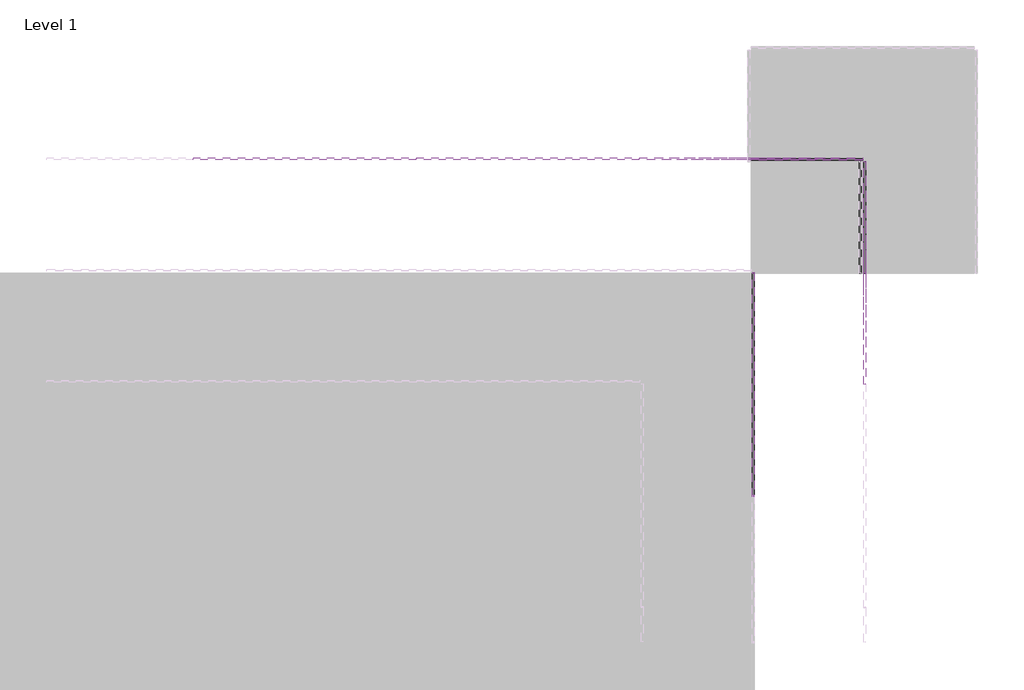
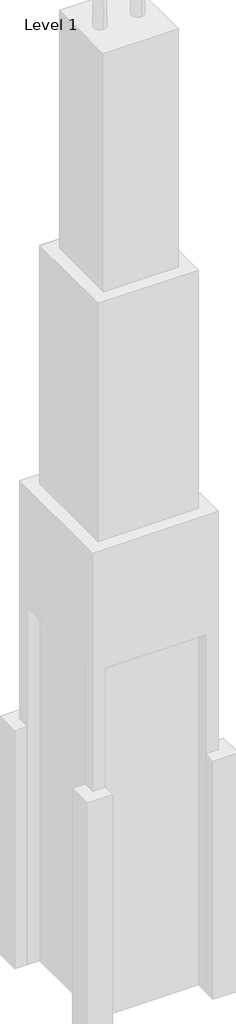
# One storey, part 10 of 15: 137 plates.
"""IFC4 building model written with IfcOpenShell, lengths in millimetres."""

from ifc_helpers import new_model, si_unit, origin, place, context, project, spatial, transform, mapped, element, save
from components import system_panel_glazed_9c75bc08, system_panel_glazed_0a0842ec, system_panel_glazed_aa64d645, system_panel_glazed_b248394d

model = new_model("IFC4")

# Units and contexts
model_context = context("Model", 3, world=origin())
ifc_project = project(units=[si_unit("LENGTHUNIT", "METRE", prefix="MILLI")], contexts=[model_context])

# Site, building, storey
site = spatial("IfcSite", under=ifc_project)
building = spatial("IfcBuilding", under=site)
storey = spatial("IfcBuildingStorey", under=building, Name="Level 1", Elevation=0.0)

# Plates
placement = place(None, origin())
system_panel_glazed_shape = system_panel_glazed_9c75bc08(model_context)
element("IfcPlate", 1, ObjectType="System Panel : Glazed", at=placement, inside=storey, context=model_context, shape_type="MappedRepresentation", body=[
    mapped(system_panel_glazed_shape, transform((-5599.4161695, 8735.9495511, 0.0), x_axis=(0.0, 1.0, 0.0), y_axis=(-1.0, 0.0, 0.0), z_axis=(0.0, 0.0, 1.0))),
])
element("IfcPlate", 2, ObjectType="System Panel : Glazed", at=placement, inside=storey, context=model_context, shape_type="MappedRepresentation", body=[
    mapped(system_panel_glazed_shape, transform((-5599.4161695, 8735.9495511, 3048.0), x_axis=(0.0, 1.0, 0.0), y_axis=(-1.0, 0.0, 0.0), z_axis=(0.0, 0.0, 1.0))),
])
element("IfcPlate", 3, ObjectType="System Panel : Glazed", at=placement, inside=storey, context=model_context, shape_type="MappedRepresentation", body=[
    mapped(system_panel_glazed_shape, transform((-5599.4161695, 8735.9495511, 6096.0), x_axis=(0.0, 1.0, 0.0), y_axis=(-1.0, 0.0, 0.0), z_axis=(0.0, 0.0, 1.0))),
])
element("IfcPlate", 4, ObjectType="System Panel : Glazed", at=placement, inside=storey, context=model_context, shape_type="MappedRepresentation", body=[
    mapped(system_panel_glazed_shape, transform((-5599.4161695, 8735.9495511, 9144.0), x_axis=(0.0, 1.0, 0.0), y_axis=(-1.0, 0.0, 0.0), z_axis=(0.0, 0.0, 1.0))),
])
element("IfcPlate", 5, ObjectType="System Panel : Glazed", at=placement, inside=storey, context=model_context, shape_type="MappedRepresentation", body=[
    mapped(system_panel_glazed_shape, transform((-5599.4161695, 8735.9495511, 12192.0), x_axis=(0.0, 1.0, 0.0), y_axis=(-1.0, 0.0, 0.0), z_axis=(0.0, 0.0, 1.0))),
])
element("IfcPlate", 6, ObjectType="System Panel : Glazed", at=placement, inside=storey, context=model_context, shape_type="MappedRepresentation", body=[
    mapped(system_panel_glazed_shape, transform((-5599.4161695, 8735.9495511, 15240.0), x_axis=(0.0, 1.0, 0.0), y_axis=(-1.0, 0.0, 0.0), z_axis=(0.0, 0.0, 1.0))),
])
element("IfcPlate", 7, ObjectType="System Panel : Glazed", at=placement, inside=storey, context=model_context, shape_type="MappedRepresentation", body=[
    mapped(system_panel_glazed_shape, transform((-5599.4161695, 8735.9495511, 18288.0), x_axis=(0.0, 1.0, 0.0), y_axis=(-1.0, 0.0, 0.0), z_axis=(0.0, 0.0, 1.0))),
])
element("IfcPlate", 8, ObjectType="System Panel : Glazed", at=placement, inside=storey, context=model_context, shape_type="MappedRepresentation", body=[
    mapped(system_panel_glazed_shape, transform((-5599.4161695, 8735.9495511, 21336.0), x_axis=(0.0, 1.0, 0.0), y_axis=(-1.0, 0.0, 0.0), z_axis=(0.0, 0.0, 1.0))),
])
element("IfcPlate", 9, ObjectType="System Panel : Glazed", at=placement, inside=storey, context=model_context, shape_type="MappedRepresentation", body=[
    mapped(system_panel_glazed_shape, transform((-5599.4161695, 8735.9495511, 24384.0), x_axis=(0.0, 1.0, 0.0), y_axis=(-1.0, 0.0, 0.0), z_axis=(0.0, 0.0, 1.0))),
])
element("IfcPlate", 10, ObjectType="System Panel : Glazed", at=placement, inside=storey, context=model_context, shape_type="MappedRepresentation", body=[
    mapped(system_panel_glazed_shape, transform((-5599.4161695, 8735.9495511, 27432.0), x_axis=(0.0, 1.0, 0.0), y_axis=(-1.0, 0.0, 0.0), z_axis=(0.0, 0.0, 1.0))),
])
element("IfcPlate", 11, ObjectType="System Panel : Glazed", at=placement, inside=storey, context=model_context, shape_type="MappedRepresentation", body=[
    mapped(system_panel_glazed_shape, transform((-5599.4161695, 8735.9495511, 30480.0), x_axis=(0.0, 1.0, 0.0), y_axis=(-1.0, 0.0, 0.0), z_axis=(0.0, 0.0, 1.0))),
])
element("IfcPlate", 12, ObjectType="System Panel : Glazed", at=placement, inside=storey, context=model_context, shape_type="MappedRepresentation", body=[
    mapped(system_panel_glazed_shape, transform((-5599.4161695, 8735.9495511, 33528.0), x_axis=(0.0, 1.0, 0.0), y_axis=(-1.0, 0.0, 0.0), z_axis=(0.0, 0.0, 1.0))),
])
element("IfcPlate", 13, ObjectType="System Panel : Glazed", at=placement, inside=storey, context=model_context, shape_type="MappedRepresentation", body=[
    mapped(system_panel_glazed_shape, transform((-5599.4161695, 8735.9495511, 36576.0), x_axis=(0.0, 1.0, 0.0), y_axis=(-1.0, 0.0, 0.0), z_axis=(0.0, 0.0, 1.0))),
])
element("IfcPlate", 14, ObjectType="System Panel : Glazed", at=placement, inside=storey, context=model_context, shape_type="MappedRepresentation", body=[
    mapped(system_panel_glazed_shape, transform((-5599.4161695, 8735.9495511, 39624.0), x_axis=(0.0, 1.0, 0.0), y_axis=(-1.0, 0.0, 0.0), z_axis=(0.0, 0.0, 1.0))),
])
element("IfcPlate", 15, ObjectType="System Panel : Glazed", at=placement, inside=storey, context=model_context, shape_type="MappedRepresentation", body=[
    mapped(system_panel_glazed_shape, transform((-5599.4161695, 8735.9495511, 42672.0), x_axis=(0.0, 1.0, 0.0), y_axis=(-1.0, 0.0, 0.0), z_axis=(0.0, 0.0, 1.0))),
])
element("IfcPlate", 16, ObjectType="System Panel : Glazed", at=placement, inside=storey, context=model_context, shape_type="MappedRepresentation", body=[
    mapped(system_panel_glazed_shape, transform((-6361.4161695, 9497.9495511, 0.0), x_axis=(-1.0, 0.0, 0.0), y_axis=(0.0, -1.0, 0.0), z_axis=(0.0, 0.0, 1.0))),
])
element("IfcPlate", 17, ObjectType="System Panel : Glazed", at=placement, inside=storey, context=model_context, shape_type="MappedRepresentation", body=[
    mapped(system_panel_glazed_shape, transform((-6361.4161695, 9497.9495511, 3048.0), x_axis=(-1.0, 0.0, 0.0), y_axis=(0.0, -1.0, 0.0), z_axis=(0.0, 0.0, 1.0))),
])
element("IfcPlate", 18, ObjectType="System Panel : Glazed", at=placement, inside=storey, context=model_context, shape_type="MappedRepresentation", body=[
    mapped(system_panel_glazed_shape, transform((-6361.4161695, 9497.9495511, 6096.0), x_axis=(-1.0, 0.0, 0.0), y_axis=(0.0, -1.0, 0.0), z_axis=(0.0, 0.0, 1.0))),
])
element("IfcPlate", 19, ObjectType="System Panel : Glazed", at=placement, inside=storey, context=model_context, shape_type="MappedRepresentation", body=[
    mapped(system_panel_glazed_shape, transform((-6361.4161695, 9497.9495511, 9144.0), x_axis=(-1.0, 0.0, 0.0), y_axis=(0.0, -1.0, 0.0), z_axis=(0.0, 0.0, 1.0))),
])
element("IfcPlate", 20, ObjectType="System Panel : Glazed", at=placement, inside=storey, context=model_context, shape_type="MappedRepresentation", body=[
    mapped(system_panel_glazed_shape, transform((-6361.4161695, 9497.9495511, 12192.0), x_axis=(-1.0, 0.0, 0.0), y_axis=(0.0, -1.0, 0.0), z_axis=(0.0, 0.0, 1.0))),
])
element("IfcPlate", 21, ObjectType="System Panel : Glazed", at=placement, inside=storey, context=model_context, shape_type="MappedRepresentation", body=[
    mapped(system_panel_glazed_shape, transform((-6361.4161695, 9497.9495511, 15240.0), x_axis=(-1.0, 0.0, 0.0), y_axis=(0.0, -1.0, 0.0), z_axis=(0.0, 0.0, 1.0))),
])
element("IfcPlate", 22, ObjectType="System Panel : Glazed", at=placement, inside=storey, context=model_context, shape_type="MappedRepresentation", body=[
    mapped(system_panel_glazed_shape, transform((-6361.4161695, 9497.9495511, 18288.0), x_axis=(-1.0, 0.0, 0.0), y_axis=(0.0, -1.0, 0.0), z_axis=(0.0, 0.0, 1.0))),
])
element("IfcPlate", 23, ObjectType="System Panel : Glazed", at=placement, inside=storey, context=model_context, shape_type="MappedRepresentation", body=[
    mapped(system_panel_glazed_shape, transform((-6361.4161695, 9497.9495511, 21336.0), x_axis=(-1.0, 0.0, 0.0), y_axis=(0.0, -1.0, 0.0), z_axis=(0.0, 0.0, 1.0))),
])
element("IfcPlate", 24, ObjectType="System Panel : Glazed", at=placement, inside=storey, context=model_context, shape_type="MappedRepresentation", body=[
    mapped(system_panel_glazed_shape, transform((-6361.4161695, 9497.9495511, 24384.0), x_axis=(-1.0, 0.0, 0.0), y_axis=(0.0, -1.0, 0.0), z_axis=(0.0, 0.0, 1.0))),
])
element("IfcPlate", 25, ObjectType="System Panel : Glazed", at=placement, inside=storey, context=model_context, shape_type="MappedRepresentation", body=[
    mapped(system_panel_glazed_shape, transform((-6361.4161695, 9497.9495511, 27432.0), x_axis=(-1.0, 0.0, 0.0), y_axis=(0.0, -1.0, 0.0), z_axis=(0.0, 0.0, 1.0))),
])
element("IfcPlate", 26, ObjectType="System Panel : Glazed", at=placement, inside=storey, context=model_context, shape_type="MappedRepresentation", body=[
    mapped(system_panel_glazed_shape, transform((-6361.4161695, 9497.9495511, 30480.0), x_axis=(-1.0, 0.0, 0.0), y_axis=(0.0, -1.0, 0.0), z_axis=(0.0, 0.0, 1.0))),
])
element("IfcPlate", 27, ObjectType="System Panel : Glazed", at=placement, inside=storey, context=model_context, shape_type="MappedRepresentation", body=[
    mapped(system_panel_glazed_shape, transform((-6361.4161695, 9497.9495511, 33528.0), x_axis=(-1.0, 0.0, 0.0), y_axis=(0.0, -1.0, 0.0), z_axis=(0.0, 0.0, 1.0))),
])
element("IfcPlate", 28, ObjectType="System Panel : Glazed", at=placement, inside=storey, context=model_context, shape_type="MappedRepresentation", body=[
    mapped(system_panel_glazed_shape, transform((-6361.4161695, 9497.9495511, 36576.0), x_axis=(-1.0, 0.0, 0.0), y_axis=(0.0, -1.0, 0.0), z_axis=(0.0, 0.0, 1.0))),
])
element("IfcPlate", 29, ObjectType="System Panel : Glazed", at=placement, inside=storey, context=model_context, shape_type="MappedRepresentation", body=[
    mapped(system_panel_glazed_shape, transform((-6361.4161695, 9497.9495511, 39624.0), x_axis=(-1.0, 0.0, 0.0), y_axis=(0.0, -1.0, 0.0), z_axis=(0.0, 0.0, 1.0))),
])
element("IfcPlate", 30, ObjectType="System Panel : Glazed", at=placement, inside=storey, context=model_context, shape_type="MappedRepresentation", body=[
    mapped(system_panel_glazed_shape, transform((-6361.4161695, 9497.9495511, 42672.0), x_axis=(-1.0, 0.0, 0.0), y_axis=(0.0, -1.0, 0.0), z_axis=(0.0, 0.0, 1.0))),
])
element("IfcPlate", 31, ObjectType="System Panel : Glazed", at=placement, inside=storey, context=model_context, shape_type="MappedRepresentation", body=[
    mapped(system_panel_glazed_shape, transform((-6361.4161695, 9497.9495511, 0.0), x_axis=(-1.0, 0.0, 0.0), y_axis=(0.0, -1.0, 0.0), z_axis=(0.0, 0.0, 1.0))),
])
element("IfcPlate", 32, ObjectType="System Panel : Glazed", at=placement, inside=storey, context=model_context, shape_type="MappedRepresentation", body=[
    mapped(system_panel_glazed_shape, transform((-6361.4161695, 9497.9495511, 3048.0), x_axis=(-1.0, 0.0, 0.0), y_axis=(0.0, -1.0, 0.0), z_axis=(0.0, 0.0, 1.0))),
])
element("IfcPlate", 33, ObjectType="System Panel : Glazed", at=placement, inside=storey, context=model_context, shape_type="MappedRepresentation", body=[
    mapped(system_panel_glazed_shape, transform((-6361.4161695, 9497.9495511, 6096.0), x_axis=(-1.0, 0.0, 0.0), y_axis=(0.0, -1.0, 0.0), z_axis=(0.0, 0.0, 1.0))),
])
element("IfcPlate", 34, ObjectType="System Panel : Glazed", at=placement, inside=storey, context=model_context, shape_type="MappedRepresentation", body=[
    mapped(system_panel_glazed_shape, transform((-6361.4161695, 9497.9495511, 9144.0), x_axis=(-1.0, 0.0, 0.0), y_axis=(0.0, -1.0, 0.0), z_axis=(0.0, 0.0, 1.0))),
])
element("IfcPlate", 35, ObjectType="System Panel : Glazed", at=placement, inside=storey, context=model_context, shape_type="MappedRepresentation", body=[
    mapped(system_panel_glazed_shape, transform((-6361.4161695, 9497.9495511, 12192.0), x_axis=(-1.0, 0.0, 0.0), y_axis=(0.0, -1.0, 0.0), z_axis=(0.0, 0.0, 1.0))),
])
element("IfcPlate", 36, ObjectType="System Panel : Glazed", at=placement, inside=storey, context=model_context, shape_type="MappedRepresentation", body=[
    mapped(system_panel_glazed_shape, transform((-6361.4161695, 9497.9495511, 15240.0), x_axis=(-1.0, 0.0, 0.0), y_axis=(0.0, -1.0, 0.0), z_axis=(0.0, 0.0, 1.0))),
])
element("IfcPlate", 37, ObjectType="System Panel : Glazed", at=placement, inside=storey, context=model_context, shape_type="MappedRepresentation", body=[
    mapped(system_panel_glazed_shape, transform((-6361.4161695, 9497.9495511, 18288.0), x_axis=(-1.0, 0.0, 0.0), y_axis=(0.0, -1.0, 0.0), z_axis=(0.0, 0.0, 1.0))),
])
element("IfcPlate", 38, ObjectType="System Panel : Glazed", at=placement, inside=storey, context=model_context, shape_type="MappedRepresentation", body=[
    mapped(system_panel_glazed_shape, transform((-6361.4161695, 9497.9495511, 21336.0), x_axis=(-1.0, 0.0, 0.0), y_axis=(0.0, -1.0, 0.0), z_axis=(0.0, 0.0, 1.0))),
])
element("IfcPlate", 39, ObjectType="System Panel : Glazed", at=placement, inside=storey, context=model_context, shape_type="MappedRepresentation", body=[
    mapped(system_panel_glazed_shape, transform((-6361.4161695, 9497.9495511, 24384.0), x_axis=(-1.0, 0.0, 0.0), y_axis=(0.0, -1.0, 0.0), z_axis=(0.0, 0.0, 1.0))),
])
element("IfcPlate", 40, ObjectType="System Panel : Glazed", at=placement, inside=storey, context=model_context, shape_type="MappedRepresentation", body=[
    mapped(system_panel_glazed_shape, transform((-6361.4161695, 9497.9495511, 27432.0), x_axis=(-1.0, 0.0, 0.0), y_axis=(0.0, -1.0, 0.0), z_axis=(0.0, 0.0, 1.0))),
])
element("IfcPlate", 41, ObjectType="System Panel : Glazed", at=placement, inside=storey, context=model_context, shape_type="MappedRepresentation", body=[
    mapped(system_panel_glazed_shape, transform((-6361.4161695, 9497.9495511, 30480.0), x_axis=(-1.0, 0.0, 0.0), y_axis=(0.0, -1.0, 0.0), z_axis=(0.0, 0.0, 1.0))),
])
element("IfcPlate", 42, ObjectType="System Panel : Glazed", at=placement, inside=storey, context=model_context, shape_type="MappedRepresentation", body=[
    mapped(system_panel_glazed_shape, transform((-6361.4161695, 9497.9495511, 33528.0), x_axis=(-1.0, 0.0, 0.0), y_axis=(0.0, -1.0, 0.0), z_axis=(0.0, 0.0, 1.0))),
])
element("IfcPlate", 43, ObjectType="System Panel : Glazed", at=placement, inside=storey, context=model_context, shape_type="MappedRepresentation", body=[
    mapped(system_panel_glazed_shape, transform((-6361.4161695, 9497.9495511, 36576.0), x_axis=(-1.0, 0.0, 0.0), y_axis=(0.0, -1.0, 0.0), z_axis=(0.0, 0.0, 1.0))),
])
element("IfcPlate", 44, ObjectType="System Panel : Glazed", at=placement, inside=storey, context=model_context, shape_type="MappedRepresentation", body=[
    mapped(system_panel_glazed_shape, transform((-6361.4161695, 9497.9495511, 39624.0), x_axis=(-1.0, 0.0, 0.0), y_axis=(0.0, -1.0, 0.0), z_axis=(0.0, 0.0, 1.0))),
])
element("IfcPlate", 45, ObjectType="System Panel : Glazed", at=placement, inside=storey, context=model_context, shape_type="MappedRepresentation", body=[
    mapped(system_panel_glazed_shape, transform((-6361.4161695, 9497.9495511, 42672.0), x_axis=(-1.0, 0.0, 0.0), y_axis=(0.0, -1.0, 0.0), z_axis=(0.0, 0.0, 1.0))),
])
element("IfcPlate", 46, ObjectType="System Panel : Glazed", at=placement, inside=storey, context=model_context, shape_type="MappedRepresentation", body=[
    mapped(system_panel_glazed_shape, transform((-6361.4161695, 9497.9495511, 0.0), x_axis=(-1.0, 0.0, 0.0), y_axis=(0.0, -1.0, 0.0), z_axis=(0.0, 0.0, 1.0))),
])
element("IfcPlate", 47, ObjectType="System Panel : Glazed", at=placement, inside=storey, context=model_context, shape_type="MappedRepresentation", body=[
    mapped(system_panel_glazed_shape, transform((-6361.4161695, 9497.9495511, 3048.0), x_axis=(-1.0, 0.0, 0.0), y_axis=(0.0, -1.0, 0.0), z_axis=(0.0, 0.0, 1.0))),
])
element("IfcPlate", 48, ObjectType="System Panel : Glazed", at=placement, inside=storey, context=model_context, shape_type="MappedRepresentation", body=[
    mapped(system_panel_glazed_shape, transform((-6361.4161695, 9497.9495511, 6096.0), x_axis=(-1.0, 0.0, 0.0), y_axis=(0.0, -1.0, 0.0), z_axis=(0.0, 0.0, 1.0))),
])
element("IfcPlate", 49, ObjectType="System Panel : Glazed", at=placement, inside=storey, context=model_context, shape_type="MappedRepresentation", body=[
    mapped(system_panel_glazed_shape, transform((-6361.4161695, 9497.9495511, 9144.0), x_axis=(-1.0, 0.0, 0.0), y_axis=(0.0, -1.0, 0.0), z_axis=(0.0, 0.0, 1.0))),
])
element("IfcPlate", 50, ObjectType="System Panel : Glazed", at=placement, inside=storey, context=model_context, shape_type="MappedRepresentation", body=[
    mapped(system_panel_glazed_shape, transform((-6361.4161695, 9497.9495511, 12192.0), x_axis=(-1.0, 0.0, 0.0), y_axis=(0.0, -1.0, 0.0), z_axis=(0.0, 0.0, 1.0))),
])
element("IfcPlate", 51, ObjectType="System Panel : Glazed", at=placement, inside=storey, context=model_context, shape_type="MappedRepresentation", body=[
    mapped(system_panel_glazed_shape, transform((-6361.4161695, 9497.9495511, 15240.0), x_axis=(-1.0, 0.0, 0.0), y_axis=(0.0, -1.0, 0.0), z_axis=(0.0, 0.0, 1.0))),
])
element("IfcPlate", 52, ObjectType="System Panel : Glazed", at=placement, inside=storey, context=model_context, shape_type="MappedRepresentation", body=[
    mapped(system_panel_glazed_shape, transform((-6361.4161695, 9497.9495511, 18288.0), x_axis=(-1.0, 0.0, 0.0), y_axis=(0.0, -1.0, 0.0), z_axis=(0.0, 0.0, 1.0))),
])
element("IfcPlate", 53, ObjectType="System Panel : Glazed", at=placement, inside=storey, context=model_context, shape_type="MappedRepresentation", body=[
    mapped(system_panel_glazed_shape, transform((-6361.4161695, 9497.9495511, 21336.0), x_axis=(-1.0, 0.0, 0.0), y_axis=(0.0, -1.0, 0.0), z_axis=(0.0, 0.0, 1.0))),
])
element("IfcPlate", 54, ObjectType="System Panel : Glazed", at=placement, inside=storey, context=model_context, shape_type="MappedRepresentation", body=[
    mapped(system_panel_glazed_shape, transform((-6361.4161695, 9497.9495511, 24384.0), x_axis=(-1.0, 0.0, 0.0), y_axis=(0.0, -1.0, 0.0), z_axis=(0.0, 0.0, 1.0))),
])
element("IfcPlate", 55, ObjectType="System Panel : Glazed", at=placement, inside=storey, context=model_context, shape_type="MappedRepresentation", body=[
    mapped(system_panel_glazed_shape, transform((-6361.4161695, 9497.9495511, 27432.0), x_axis=(-1.0, 0.0, 0.0), y_axis=(0.0, -1.0, 0.0), z_axis=(0.0, 0.0, 1.0))),
])
element("IfcPlate", 56, ObjectType="System Panel : Glazed", at=placement, inside=storey, context=model_context, shape_type="MappedRepresentation", body=[
    mapped(system_panel_glazed_shape, transform((-6361.4161695, 9497.9495511, 30480.0), x_axis=(-1.0, 0.0, 0.0), y_axis=(0.0, -1.0, 0.0), z_axis=(0.0, 0.0, 1.0))),
])
element("IfcPlate", 57, ObjectType="System Panel : Glazed", at=placement, inside=storey, context=model_context, shape_type="MappedRepresentation", body=[
    mapped(system_panel_glazed_shape, transform((-6361.4161695, 9497.9495511, 33528.0), x_axis=(-1.0, 0.0, 0.0), y_axis=(0.0, -1.0, 0.0), z_axis=(0.0, 0.0, 1.0))),
])
element("IfcPlate", 58, ObjectType="System Panel : Glazed", at=placement, inside=storey, context=model_context, shape_type="MappedRepresentation", body=[
    mapped(system_panel_glazed_shape, transform((-6361.4161695, 9497.9495511, 36576.0), x_axis=(-1.0, 0.0, 0.0), y_axis=(0.0, -1.0, 0.0), z_axis=(0.0, 0.0, 1.0))),
])
element("IfcPlate", 59, ObjectType="System Panel : Glazed", at=placement, inside=storey, context=model_context, shape_type="MappedRepresentation", body=[
    mapped(system_panel_glazed_shape, transform((-6361.4161695, 9497.9495511, 39624.0), x_axis=(-1.0, 0.0, 0.0), y_axis=(0.0, -1.0, 0.0), z_axis=(0.0, 0.0, 1.0))),
])
element("IfcPlate", 60, ObjectType="System Panel : Glazed", at=placement, inside=storey, context=model_context, shape_type="MappedRepresentation", body=[
    mapped(system_panel_glazed_shape, transform((-6361.4161695, 9497.9495511, 42672.0), x_axis=(-1.0, 0.0, 0.0), y_axis=(0.0, -1.0, 0.0), z_axis=(0.0, 0.0, 1.0))),
])
element("IfcPlate", 61, ObjectType="System Panel : Glazed", at=placement, inside=storey, context=model_context, shape_type="MappedRepresentation", body=[
    mapped(system_panel_glazed_shape, transform((-5599.4161695, 8735.9495511, 0.0), x_axis=(0.0, -1.0, 0.0), y_axis=(1.0, 0.0, 0.0), z_axis=(0.0, 0.0, 1.0))),
])
element("IfcPlate", 62, ObjectType="System Panel : Glazed", at=placement, inside=storey, context=model_context, shape_type="MappedRepresentation", body=[
    mapped(system_panel_glazed_shape, transform((-5599.4161695, 8735.9495511, 3048.0), x_axis=(0.0, -1.0, 0.0), y_axis=(1.0, 0.0, 0.0), z_axis=(0.0, 0.0, 1.0))),
])
element("IfcPlate", 63, ObjectType="System Panel : Glazed", at=placement, inside=storey, context=model_context, shape_type="MappedRepresentation", body=[
    mapped(system_panel_glazed_shape, transform((-5599.4161695, 8735.9495511, 6096.0), x_axis=(0.0, -1.0, 0.0), y_axis=(1.0, 0.0, 0.0), z_axis=(0.0, 0.0, 1.0))),
])
element("IfcPlate", 64, ObjectType="System Panel : Glazed", at=placement, inside=storey, context=model_context, shape_type="MappedRepresentation", body=[
    mapped(system_panel_glazed_shape, transform((-5599.4161695, 8735.9495511, 9144.0), x_axis=(0.0, -1.0, 0.0), y_axis=(1.0, 0.0, 0.0), z_axis=(0.0, 0.0, 1.0))),
])
element("IfcPlate", 65, ObjectType="System Panel : Glazed", at=placement, inside=storey, context=model_context, shape_type="MappedRepresentation", body=[
    mapped(system_panel_glazed_shape, transform((-5599.4161695, 8735.9495511, 12192.0), x_axis=(0.0, -1.0, 0.0), y_axis=(1.0, 0.0, 0.0), z_axis=(0.0, 0.0, 1.0))),
])
system_panel_glazed_2_shape = system_panel_glazed_0a0842ec(model_context)
element("IfcPlate", 66, ObjectType="System Panel : Glazed", at=placement, inside=storey, context=model_context, shape_type="MappedRepresentation", body=[
    mapped(system_panel_glazed_2_shape, transform((-5599.4161695, 7973.9495511, 45720.0), x_axis=(0.0, 1.0, 0.0), y_axis=(-1.0, 0.0, 0.0), z_axis=(0.0, 0.0, 1.0))),
])
element("IfcPlate", 67, ObjectType="System Panel : Glazed", at=placement, inside=storey, context=model_context, shape_type="MappedRepresentation", body=[
    mapped(system_panel_glazed_2_shape, transform((-7123.4161695, 9497.9495511, 45720.0), x_axis=(-1.0, 0.0, 0.0), y_axis=(0.0, -1.0, 0.0), z_axis=(0.0, 0.0, 1.0))),
])
element("IfcPlate", 68, ObjectType="System Panel : Glazed", at=placement, inside=storey, context=model_context, shape_type="MappedRepresentation", body=[
    mapped(system_panel_glazed_2_shape, transform((-7123.4161695, 9497.9495511, 45720.0), x_axis=(-1.0, 0.0, 0.0), y_axis=(0.0, -1.0, 0.0), z_axis=(0.0, 0.0, 1.0))),
])
element("IfcPlate", 69, ObjectType="System Panel : Glazed", at=placement, inside=storey, context=model_context, shape_type="MappedRepresentation", body=[
    mapped(system_panel_glazed_2_shape, transform((-7123.4161695, 9497.9495511, 45720.0), x_axis=(-1.0, 0.0, 0.0), y_axis=(0.0, -1.0, 0.0), z_axis=(0.0, 0.0, 1.0))),
])
system_panel_glazed_3_shape = system_panel_glazed_aa64d645(model_context)
element("IfcPlate", 70, ObjectType="System Panel : Glazed", at=placement, inside=storey, context=model_context, shape_type="MappedRepresentation", body=[
    mapped(system_panel_glazed_3_shape, transform((-5599.4161695, 7973.9495511, 48768.0), x_axis=(0.0, 1.0, 0.0), y_axis=(-1.0, 0.0, 0.0), z_axis=(0.0, 0.0, 1.0))),
])
element("IfcPlate", 71, ObjectType="System Panel : Glazed", at=placement, inside=storey, context=model_context, shape_type="MappedRepresentation", body=[
    mapped(system_panel_glazed_3_shape, transform((-5599.4161695, 7973.9495511, 51816.0), x_axis=(0.0, 1.0, 0.0), y_axis=(-1.0, 0.0, 0.0), z_axis=(0.0, 0.0, 1.0))),
])
element("IfcPlate", 72, ObjectType="System Panel : Glazed", at=placement, inside=storey, context=model_context, shape_type="MappedRepresentation", body=[
    mapped(system_panel_glazed_3_shape, transform((-5599.4161695, 7973.9495511, 54864.0), x_axis=(0.0, 1.0, 0.0), y_axis=(-1.0, 0.0, 0.0), z_axis=(0.0, 0.0, 1.0))),
])
element("IfcPlate", 73, ObjectType="System Panel : Glazed", at=placement, inside=storey, context=model_context, shape_type="MappedRepresentation", body=[
    mapped(system_panel_glazed_3_shape, transform((-5599.4161695, 7973.9495511, 57912.0), x_axis=(0.0, 1.0, 0.0), y_axis=(-1.0, 0.0, 0.0), z_axis=(0.0, 0.0, 1.0))),
])
element("IfcPlate", 74, ObjectType="System Panel : Glazed", at=placement, inside=storey, context=model_context, shape_type="MappedRepresentation", body=[
    mapped(system_panel_glazed_3_shape, transform((-10171.4161695, 9497.9495511, 45720.0), x_axis=(-1.0, 0.0, 0.0), y_axis=(0.0, -1.0, 0.0), z_axis=(0.0, 0.0, 1.0))),
])
element("IfcPlate", 75, ObjectType="System Panel : Glazed", at=placement, inside=storey, context=model_context, shape_type="MappedRepresentation", body=[
    mapped(system_panel_glazed_3_shape, transform((-13219.4161695, 9497.9495511, 45720.0), x_axis=(-1.0, 0.0, 0.0), y_axis=(0.0, -1.0, 0.0), z_axis=(0.0, 0.0, 1.0))),
])
element("IfcPlate", 76, ObjectType="System Panel : Glazed", at=placement, inside=storey, context=model_context, shape_type="MappedRepresentation", body=[
    mapped(system_panel_glazed_3_shape, transform((-7123.4161695, 9497.9495511, 48768.0), x_axis=(-1.0, 0.0, 0.0), y_axis=(0.0, -1.0, 0.0), z_axis=(0.0, 0.0, 1.0))),
])
element("IfcPlate", 77, ObjectType="System Panel : Glazed", at=placement, inside=storey, context=model_context, shape_type="MappedRepresentation", body=[
    mapped(system_panel_glazed_3_shape, transform((-10171.4161695, 9497.9495511, 48768.0), x_axis=(-1.0, 0.0, 0.0), y_axis=(0.0, -1.0, 0.0), z_axis=(0.0, 0.0, 1.0))),
])
element("IfcPlate", 78, ObjectType="System Panel : Glazed", at=placement, inside=storey, context=model_context, shape_type="MappedRepresentation", body=[
    mapped(system_panel_glazed_3_shape, transform((-13219.4161695, 9497.9495511, 48768.0), x_axis=(-1.0, 0.0, 0.0), y_axis=(0.0, -1.0, 0.0), z_axis=(0.0, 0.0, 1.0))),
])
element("IfcPlate", 79, ObjectType="System Panel : Glazed", at=placement, inside=storey, context=model_context, shape_type="MappedRepresentation", body=[
    mapped(system_panel_glazed_3_shape, transform((-7123.4161695, 9497.9495511, 51816.0), x_axis=(-1.0, 0.0, 0.0), y_axis=(0.0, -1.0, 0.0), z_axis=(0.0, 0.0, 1.0))),
])
element("IfcPlate", 80, ObjectType="System Panel : Glazed", at=placement, inside=storey, context=model_context, shape_type="MappedRepresentation", body=[
    mapped(system_panel_glazed_3_shape, transform((-10171.4161695, 9497.9495511, 51816.0), x_axis=(-1.0, 0.0, 0.0), y_axis=(0.0, -1.0, 0.0), z_axis=(0.0, 0.0, 1.0))),
])
element("IfcPlate", 81, ObjectType="System Panel : Glazed", at=placement, inside=storey, context=model_context, shape_type="MappedRepresentation", body=[
    mapped(system_panel_glazed_3_shape, transform((-13219.4161695, 9497.9495511, 51816.0), x_axis=(-1.0, 0.0, 0.0), y_axis=(0.0, -1.0, 0.0), z_axis=(0.0, 0.0, 1.0))),
])
element("IfcPlate", 82, ObjectType="System Panel : Glazed", at=placement, inside=storey, context=model_context, shape_type="MappedRepresentation", body=[
    mapped(system_panel_glazed_3_shape, transform((-7123.4161695, 9497.9495511, 54864.0), x_axis=(-1.0, 0.0, 0.0), y_axis=(0.0, -1.0, 0.0), z_axis=(0.0, 0.0, 1.0))),
])
element("IfcPlate", 83, ObjectType="System Panel : Glazed", at=placement, inside=storey, context=model_context, shape_type="MappedRepresentation", body=[
    mapped(system_panel_glazed_3_shape, transform((-10171.4161695, 9497.9495511, 54864.0), x_axis=(-1.0, 0.0, 0.0), y_axis=(0.0, -1.0, 0.0), z_axis=(0.0, 0.0, 1.0))),
])
element("IfcPlate", 84, ObjectType="System Panel : Glazed", at=placement, inside=storey, context=model_context, shape_type="MappedRepresentation", body=[
    mapped(system_panel_glazed_3_shape, transform((-13219.4161695, 9497.9495511, 54864.0), x_axis=(-1.0, 0.0, 0.0), y_axis=(0.0, -1.0, 0.0), z_axis=(0.0, 0.0, 1.0))),
])
element("IfcPlate", 85, ObjectType="System Panel : Glazed", at=placement, inside=storey, context=model_context, shape_type="MappedRepresentation", body=[
    mapped(system_panel_glazed_3_shape, transform((-7123.4161695, 9497.9495511, 57912.0), x_axis=(-1.0, 0.0, 0.0), y_axis=(0.0, -1.0, 0.0), z_axis=(0.0, 0.0, 1.0))),
])
element("IfcPlate", 86, ObjectType="System Panel : Glazed", at=placement, inside=storey, context=model_context, shape_type="MappedRepresentation", body=[
    mapped(system_panel_glazed_3_shape, transform((-10171.4161695, 9497.9495511, 57912.0), x_axis=(-1.0, 0.0, 0.0), y_axis=(0.0, -1.0, 0.0), z_axis=(0.0, 0.0, 1.0))),
])
element("IfcPlate", 87, ObjectType="System Panel : Glazed", at=placement, inside=storey, context=model_context, shape_type="MappedRepresentation", body=[
    mapped(system_panel_glazed_3_shape, transform((-13219.4161695, 9497.9495511, 57912.0), x_axis=(-1.0, 0.0, 0.0), y_axis=(0.0, -1.0, 0.0), z_axis=(0.0, 0.0, 1.0))),
])
element("IfcPlate", 88, ObjectType="System Panel : Glazed", at=placement, inside=storey, context=model_context, shape_type="MappedRepresentation", body=[
    mapped(system_panel_glazed_3_shape, transform((-7123.4161695, 6449.9495511, 70104.0), x_axis=(0.0, 1.0, 0.0), y_axis=(-1.0, 0.0, 0.0), z_axis=(0.0, 0.0, 1.0))),
])
element("IfcPlate", 89, ObjectType="System Panel : Glazed", at=placement, inside=storey, context=model_context, shape_type="MappedRepresentation", body=[
    mapped(system_panel_glazed_3_shape, transform((-7123.4161695, 6449.9495511, 73152.0), x_axis=(0.0, 1.0, 0.0), y_axis=(-1.0, 0.0, 0.0), z_axis=(0.0, 0.0, 1.0))),
])
element("IfcPlate", 90, ObjectType="System Panel : Glazed", at=placement, inside=storey, context=model_context, shape_type="MappedRepresentation", body=[
    mapped(system_panel_glazed_3_shape, transform((-7123.4161695, 6449.9495511, 76200.0), x_axis=(0.0, 1.0, 0.0), y_axis=(-1.0, 0.0, 0.0), z_axis=(0.0, 0.0, 1.0))),
])
element("IfcPlate", 91, ObjectType="System Panel : Glazed", at=placement, inside=storey, context=model_context, shape_type="MappedRepresentation", body=[
    mapped(system_panel_glazed_3_shape, transform((-7123.4161695, 6449.9495511, 79248.0), x_axis=(0.0, 1.0, 0.0), y_axis=(-1.0, 0.0, 0.0), z_axis=(0.0, 0.0, 1.0))),
])
element("IfcPlate", 92, ObjectType="System Panel : Glazed", at=placement, inside=storey, context=model_context, shape_type="MappedRepresentation", body=[
    mapped(system_panel_glazed_3_shape, transform((-7123.4161695, 6449.9495511, 82296.0), x_axis=(0.0, 1.0, 0.0), y_axis=(-1.0, 0.0, 0.0), z_axis=(0.0, 0.0, 1.0))),
])
element("IfcPlate", 93, ObjectType="System Panel : Glazed", at=placement, inside=storey, context=model_context, shape_type="MappedRepresentation", body=[
    mapped(system_panel_glazed_3_shape, transform((-7123.4161695, 6449.9495511, 85344.0), x_axis=(0.0, 1.0, 0.0), y_axis=(-1.0, 0.0, 0.0), z_axis=(0.0, 0.0, 1.0))),
])
element("IfcPlate", 94, ObjectType="System Panel : Glazed", at=placement, inside=storey, context=model_context, shape_type="MappedRepresentation", body=[
    mapped(system_panel_glazed_3_shape, transform((-7123.4161695, 6449.9495511, 88392.0), x_axis=(0.0, 1.0, 0.0), y_axis=(-1.0, 0.0, 0.0), z_axis=(0.0, 0.0, 1.0))),
])
element("IfcPlate", 95, ObjectType="System Panel : Glazed", at=placement, inside=storey, context=model_context, shape_type="MappedRepresentation", body=[
    mapped(system_panel_glazed_3_shape, transform((-10171.4161695, 9497.9495511, 45720.0), x_axis=(-1.0, 0.0, 0.0), y_axis=(0.0, -1.0, 0.0), z_axis=(0.0, 0.0, 1.0))),
])
element("IfcPlate", 96, ObjectType="System Panel : Glazed", at=placement, inside=storey, context=model_context, shape_type="MappedRepresentation", body=[
    mapped(system_panel_glazed_3_shape, transform((-13219.4161695, 9497.9495511, 45720.0), x_axis=(-1.0, 0.0, 0.0), y_axis=(0.0, -1.0, 0.0), z_axis=(0.0, 0.0, 1.0))),
])
element("IfcPlate", 97, ObjectType="System Panel : Glazed", at=placement, inside=storey, context=model_context, shape_type="MappedRepresentation", body=[
    mapped(system_panel_glazed_3_shape, transform((-7123.4161695, 9497.9495511, 48768.0), x_axis=(-1.0, 0.0, 0.0), y_axis=(0.0, -1.0, 0.0), z_axis=(0.0, 0.0, 1.0))),
])
element("IfcPlate", 98, ObjectType="System Panel : Glazed", at=placement, inside=storey, context=model_context, shape_type="MappedRepresentation", body=[
    mapped(system_panel_glazed_3_shape, transform((-10171.4161695, 9497.9495511, 48768.0), x_axis=(-1.0, 0.0, 0.0), y_axis=(0.0, -1.0, 0.0), z_axis=(0.0, 0.0, 1.0))),
])
element("IfcPlate", 99, ObjectType="System Panel : Glazed", at=placement, inside=storey, context=model_context, shape_type="MappedRepresentation", body=[
    mapped(system_panel_glazed_3_shape, transform((-13219.4161695, 9497.9495511, 48768.0), x_axis=(-1.0, 0.0, 0.0), y_axis=(0.0, -1.0, 0.0), z_axis=(0.0, 0.0, 1.0))),
])
element("IfcPlate", 100, ObjectType="System Panel : Glazed", at=placement, inside=storey, context=model_context, shape_type="MappedRepresentation", body=[
    mapped(system_panel_glazed_3_shape, transform((-7123.4161695, 9497.9495511, 51816.0), x_axis=(-1.0, 0.0, 0.0), y_axis=(0.0, -1.0, 0.0), z_axis=(0.0, 0.0, 1.0))),
])
element("IfcPlate", 101, ObjectType="System Panel : Glazed", at=placement, inside=storey, context=model_context, shape_type="MappedRepresentation", body=[
    mapped(system_panel_glazed_3_shape, transform((-10171.4161695, 9497.9495511, 51816.0), x_axis=(-1.0, 0.0, 0.0), y_axis=(0.0, -1.0, 0.0), z_axis=(0.0, 0.0, 1.0))),
])
element("IfcPlate", 102, ObjectType="System Panel : Glazed", at=placement, inside=storey, context=model_context, shape_type="MappedRepresentation", body=[
    mapped(system_panel_glazed_3_shape, transform((-13219.4161695, 9497.9495511, 51816.0), x_axis=(-1.0, 0.0, 0.0), y_axis=(0.0, -1.0, 0.0), z_axis=(0.0, 0.0, 1.0))),
])
element("IfcPlate", 103, ObjectType="System Panel : Glazed", at=placement, inside=storey, context=model_context, shape_type="MappedRepresentation", body=[
    mapped(system_panel_glazed_3_shape, transform((-7123.4161695, 9497.9495511, 54864.0), x_axis=(-1.0, 0.0, 0.0), y_axis=(0.0, -1.0, 0.0), z_axis=(0.0, 0.0, 1.0))),
])
element("IfcPlate", 104, ObjectType="System Panel : Glazed", at=placement, inside=storey, context=model_context, shape_type="MappedRepresentation", body=[
    mapped(system_panel_glazed_3_shape, transform((-10171.4161695, 9497.9495511, 54864.0), x_axis=(-1.0, 0.0, 0.0), y_axis=(0.0, -1.0, 0.0), z_axis=(0.0, 0.0, 1.0))),
])
element("IfcPlate", 105, ObjectType="System Panel : Glazed", at=placement, inside=storey, context=model_context, shape_type="MappedRepresentation", body=[
    mapped(system_panel_glazed_3_shape, transform((-13219.4161695, 9497.9495511, 54864.0), x_axis=(-1.0, 0.0, 0.0), y_axis=(0.0, -1.0, 0.0), z_axis=(0.0, 0.0, 1.0))),
])
element("IfcPlate", 106, ObjectType="System Panel : Glazed", at=placement, inside=storey, context=model_context, shape_type="MappedRepresentation", body=[
    mapped(system_panel_glazed_3_shape, transform((-7123.4161695, 9497.9495511, 57912.0), x_axis=(-1.0, 0.0, 0.0), y_axis=(0.0, -1.0, 0.0), z_axis=(0.0, 0.0, 1.0))),
])
element("IfcPlate", 107, ObjectType="System Panel : Glazed", at=placement, inside=storey, context=model_context, shape_type="MappedRepresentation", body=[
    mapped(system_panel_glazed_3_shape, transform((-10171.4161695, 9497.9495511, 57912.0), x_axis=(-1.0, 0.0, 0.0), y_axis=(0.0, -1.0, 0.0), z_axis=(0.0, 0.0, 1.0))),
])
element("IfcPlate", 108, ObjectType="System Panel : Glazed", at=placement, inside=storey, context=model_context, shape_type="MappedRepresentation", body=[
    mapped(system_panel_glazed_3_shape, transform((-13219.4161695, 9497.9495511, 57912.0), x_axis=(-1.0, 0.0, 0.0), y_axis=(0.0, -1.0, 0.0), z_axis=(0.0, 0.0, 1.0))),
])
element("IfcPlate", 109, ObjectType="System Panel : Glazed", at=placement, inside=storey, context=model_context, shape_type="MappedRepresentation", body=[
    mapped(system_panel_glazed_3_shape, transform((-10171.4161695, 9497.9495511, 45720.0), x_axis=(-1.0, 0.0, 0.0), y_axis=(0.0, -1.0, 0.0), z_axis=(0.0, 0.0, 1.0))),
])
element("IfcPlate", 110, ObjectType="System Panel : Glazed", at=placement, inside=storey, context=model_context, shape_type="MappedRepresentation", body=[
    mapped(system_panel_glazed_3_shape, transform((-13219.4161695, 9497.9495511, 45720.0), x_axis=(-1.0, 0.0, 0.0), y_axis=(0.0, -1.0, 0.0), z_axis=(0.0, 0.0, 1.0))),
])
element("IfcPlate", 111, ObjectType="System Panel : Glazed", at=placement, inside=storey, context=model_context, shape_type="MappedRepresentation", body=[
    mapped(system_panel_glazed_3_shape, transform((-7123.4161695, 9497.9495511, 48768.0), x_axis=(-1.0, 0.0, 0.0), y_axis=(0.0, -1.0, 0.0), z_axis=(0.0, 0.0, 1.0))),
])
element("IfcPlate", 112, ObjectType="System Panel : Glazed", at=placement, inside=storey, context=model_context, shape_type="MappedRepresentation", body=[
    mapped(system_panel_glazed_3_shape, transform((-10171.4161695, 9497.9495511, 48768.0), x_axis=(-1.0, 0.0, 0.0), y_axis=(0.0, -1.0, 0.0), z_axis=(0.0, 0.0, 1.0))),
])
element("IfcPlate", 113, ObjectType="System Panel : Glazed", at=placement, inside=storey, context=model_context, shape_type="MappedRepresentation", body=[
    mapped(system_panel_glazed_3_shape, transform((-13219.4161695, 9497.9495511, 48768.0), x_axis=(-1.0, 0.0, 0.0), y_axis=(0.0, -1.0, 0.0), z_axis=(0.0, 0.0, 1.0))),
])
element("IfcPlate", 114, ObjectType="System Panel : Glazed", at=placement, inside=storey, context=model_context, shape_type="MappedRepresentation", body=[
    mapped(system_panel_glazed_3_shape, transform((-7123.4161695, 9497.9495511, 51816.0), x_axis=(-1.0, 0.0, 0.0), y_axis=(0.0, -1.0, 0.0), z_axis=(0.0, 0.0, 1.0))),
])
element("IfcPlate", 115, ObjectType="System Panel : Glazed", at=placement, inside=storey, context=model_context, shape_type="MappedRepresentation", body=[
    mapped(system_panel_glazed_3_shape, transform((-10171.4161695, 9497.9495511, 51816.0), x_axis=(-1.0, 0.0, 0.0), y_axis=(0.0, -1.0, 0.0), z_axis=(0.0, 0.0, 1.0))),
])
element("IfcPlate", 116, ObjectType="System Panel : Glazed", at=placement, inside=storey, context=model_context, shape_type="MappedRepresentation", body=[
    mapped(system_panel_glazed_3_shape, transform((-13219.4161695, 9497.9495511, 51816.0), x_axis=(-1.0, 0.0, 0.0), y_axis=(0.0, -1.0, 0.0), z_axis=(0.0, 0.0, 1.0))),
])
element("IfcPlate", 117, ObjectType="System Panel : Glazed", at=placement, inside=storey, context=model_context, shape_type="MappedRepresentation", body=[
    mapped(system_panel_glazed_3_shape, transform((-7123.4161695, 9497.9495511, 54864.0), x_axis=(-1.0, 0.0, 0.0), y_axis=(0.0, -1.0, 0.0), z_axis=(0.0, 0.0, 1.0))),
])
element("IfcPlate", 118, ObjectType="System Panel : Glazed", at=placement, inside=storey, context=model_context, shape_type="MappedRepresentation", body=[
    mapped(system_panel_glazed_3_shape, transform((-10171.4161695, 9497.9495511, 54864.0), x_axis=(-1.0, 0.0, 0.0), y_axis=(0.0, -1.0, 0.0), z_axis=(0.0, 0.0, 1.0))),
])
element("IfcPlate", 119, ObjectType="System Panel : Glazed", at=placement, inside=storey, context=model_context, shape_type="MappedRepresentation", body=[
    mapped(system_panel_glazed_3_shape, transform((-13219.4161695, 9497.9495511, 54864.0), x_axis=(-1.0, 0.0, 0.0), y_axis=(0.0, -1.0, 0.0), z_axis=(0.0, 0.0, 1.0))),
])
element("IfcPlate", 120, ObjectType="System Panel : Glazed", at=placement, inside=storey, context=model_context, shape_type="MappedRepresentation", body=[
    mapped(system_panel_glazed_3_shape, transform((-7123.4161695, 9497.9495511, 57912.0), x_axis=(-1.0, 0.0, 0.0), y_axis=(0.0, -1.0, 0.0), z_axis=(0.0, 0.0, 1.0))),
])
element("IfcPlate", 121, ObjectType="System Panel : Glazed", at=placement, inside=storey, context=model_context, shape_type="MappedRepresentation", body=[
    mapped(system_panel_glazed_3_shape, transform((-10171.4161695, 9497.9495511, 57912.0), x_axis=(-1.0, 0.0, 0.0), y_axis=(0.0, -1.0, 0.0), z_axis=(0.0, 0.0, 1.0))),
])
element("IfcPlate", 122, ObjectType="System Panel : Glazed", at=placement, inside=storey, context=model_context, shape_type="MappedRepresentation", body=[
    mapped(system_panel_glazed_3_shape, transform((-13219.4161695, 9497.9495511, 57912.0), x_axis=(-1.0, 0.0, 0.0), y_axis=(0.0, -1.0, 0.0), z_axis=(0.0, 0.0, 1.0))),
])
system_panel_glazed_4_shape = system_panel_glazed_b248394d(model_context)
element("IfcPlate", 123, ObjectType="System Panel : Glazed", at=placement, inside=storey, context=model_context, shape_type="MappedRepresentation", body=[
    mapped(system_panel_glazed_4_shape, transform((-7123.4161695, 6449.9495511, 0.0), x_axis=(0.0, -1.0, 0.0), y_axis=(1.0, 0.0, 0.0), z_axis=(0.0, 0.0, 1.0))),
])
element("IfcPlate", 124, ObjectType="System Panel : Glazed", at=placement, inside=storey, context=model_context, shape_type="MappedRepresentation", body=[
    mapped(system_panel_glazed_4_shape, transform((-7123.4161695, 6449.9495511, 3048.0), x_axis=(0.0, -1.0, 0.0), y_axis=(1.0, 0.0, 0.0), z_axis=(0.0, 0.0, 1.0))),
])
element("IfcPlate", 125, ObjectType="System Panel : Glazed", at=placement, inside=storey, context=model_context, shape_type="MappedRepresentation", body=[
    mapped(system_panel_glazed_4_shape, transform((-7123.4161695, 6449.9495511, 6096.0), x_axis=(0.0, -1.0, 0.0), y_axis=(1.0, 0.0, 0.0), z_axis=(0.0, 0.0, 1.0))),
])
element("IfcPlate", 126, ObjectType="System Panel : Glazed", at=placement, inside=storey, context=model_context, shape_type="MappedRepresentation", body=[
    mapped(system_panel_glazed_4_shape, transform((-7123.4161695, 6449.9495511, 9144.0), x_axis=(0.0, -1.0, 0.0), y_axis=(1.0, 0.0, 0.0), z_axis=(0.0, 0.0, 1.0))),
])
element("IfcPlate", 127, ObjectType="System Panel : Glazed", at=placement, inside=storey, context=model_context, shape_type="MappedRepresentation", body=[
    mapped(system_panel_glazed_4_shape, transform((-7123.4161695, 6449.9495511, 12192.0), x_axis=(0.0, -1.0, 0.0), y_axis=(1.0, 0.0, 0.0), z_axis=(0.0, 0.0, 1.0))),
])
element("IfcPlate", 128, ObjectType="System Panel : Glazed", at=placement, inside=storey, context=model_context, shape_type="MappedRepresentation", body=[
    mapped(system_panel_glazed_4_shape, transform((-7123.4161695, 6449.9495511, 15240.0), x_axis=(0.0, -1.0, 0.0), y_axis=(1.0, 0.0, 0.0), z_axis=(0.0, 0.0, 1.0))),
])
element("IfcPlate", 129, ObjectType="System Panel : Glazed", at=placement, inside=storey, context=model_context, shape_type="MappedRepresentation", body=[
    mapped(system_panel_glazed_4_shape, transform((-7123.4161695, 6449.9495511, 18288.0), x_axis=(0.0, -1.0, 0.0), y_axis=(1.0, 0.0, 0.0), z_axis=(0.0, 0.0, 1.0))),
])
element("IfcPlate", 130, ObjectType="System Panel : Glazed", at=placement, inside=storey, context=model_context, shape_type="MappedRepresentation", body=[
    mapped(system_panel_glazed_4_shape, transform((-7123.4161695, 6449.9495511, 21336.0), x_axis=(0.0, -1.0, 0.0), y_axis=(1.0, 0.0, 0.0), z_axis=(0.0, 0.0, 1.0))),
])
element("IfcPlate", 131, ObjectType="System Panel : Glazed", at=placement, inside=storey, context=model_context, shape_type="MappedRepresentation", body=[
    mapped(system_panel_glazed_4_shape, transform((-7123.4161695, 6449.9495511, 24384.0), x_axis=(0.0, -1.0, 0.0), y_axis=(1.0, 0.0, 0.0), z_axis=(0.0, 0.0, 1.0))),
])
element("IfcPlate", 132, ObjectType="System Panel : Glazed", at=placement, inside=storey, context=model_context, shape_type="MappedRepresentation", body=[
    mapped(system_panel_glazed_4_shape, transform((-7123.4161695, 6449.9495511, 27432.0), x_axis=(0.0, -1.0, 0.0), y_axis=(1.0, 0.0, 0.0), z_axis=(0.0, 0.0, 1.0))),
])
element("IfcPlate", 133, ObjectType="System Panel : Glazed", at=placement, inside=storey, context=model_context, shape_type="MappedRepresentation", body=[
    mapped(system_panel_glazed_4_shape, transform((-7123.4161695, 6449.9495511, 30480.0), x_axis=(0.0, -1.0, 0.0), y_axis=(1.0, 0.0, 0.0), z_axis=(0.0, 0.0, 1.0))),
])
element("IfcPlate", 134, ObjectType="System Panel : Glazed", at=placement, inside=storey, context=model_context, shape_type="MappedRepresentation", body=[
    mapped(system_panel_glazed_4_shape, transform((-7123.4161695, 6449.9495511, 33528.0), x_axis=(0.0, -1.0, 0.0), y_axis=(1.0, 0.0, 0.0), z_axis=(0.0, 0.0, 1.0))),
])
element("IfcPlate", 135, ObjectType="System Panel : Glazed", at=placement, inside=storey, context=model_context, shape_type="MappedRepresentation", body=[
    mapped(system_panel_glazed_4_shape, transform((-7123.4161695, 6449.9495511, 36576.0), x_axis=(0.0, -1.0, 0.0), y_axis=(1.0, 0.0, 0.0), z_axis=(0.0, 0.0, 1.0))),
])
element("IfcPlate", 136, ObjectType="System Panel : Glazed", at=placement, inside=storey, context=model_context, shape_type="MappedRepresentation", body=[
    mapped(system_panel_glazed_4_shape, transform((-7123.4161695, 6449.9495511, 39624.0), x_axis=(0.0, -1.0, 0.0), y_axis=(1.0, 0.0, 0.0), z_axis=(0.0, 0.0, 1.0))),
])
element("IfcPlate", 137, ObjectType="System Panel : Glazed", at=placement, inside=storey, context=model_context, shape_type="MappedRepresentation", body=[
    mapped(system_panel_glazed_4_shape, transform((-7123.4161695, 6449.9495511, 42672.0), x_axis=(0.0, -1.0, 0.0), y_axis=(1.0, 0.0, 0.0), z_axis=(0.0, 0.0, 1.0))),
])

save(model, "model.ifc")
